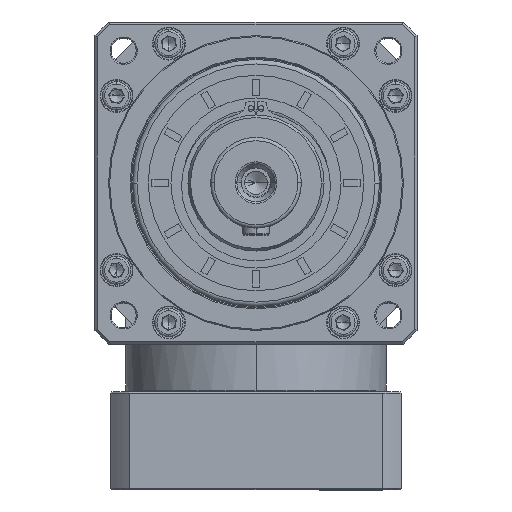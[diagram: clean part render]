
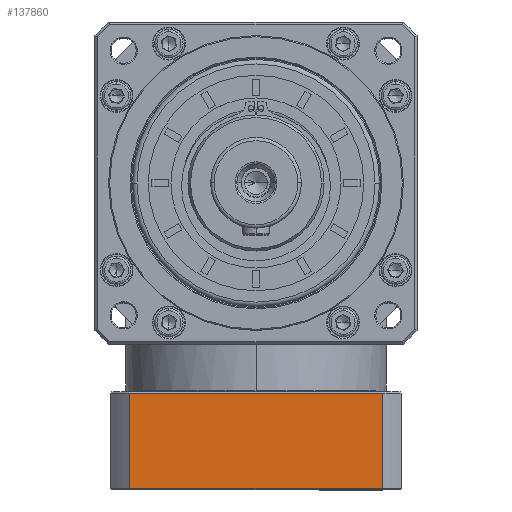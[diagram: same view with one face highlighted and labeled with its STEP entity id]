
A CAD part, top view. The second image highlights one B-rep face of the part: STEP entity #137860.
In plain terms, the highlighted planar face has unit normal (0, 0, 1).
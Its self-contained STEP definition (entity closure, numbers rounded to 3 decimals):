
#4221 = EDGE_CURVE ( 'NONE', #154156, #64078, #118856, .T. ) ;
#7532 = ORIENTED_EDGE ( 'NONE', *, *, #4221, .F. ) ;
#9029 = CARTESIAN_POINT ( 'NONE',  ( -229.051, -110.773, 129.692 ) ) ;
#9103 = VERTEX_POINT ( 'NONE', #9029 ) ;
#10084 = VECTOR ( 'NONE', #41950, 1000. ) ;
#19706 = CARTESIAN_POINT ( 'NONE',  ( -229.051, -153.273, 129.692 ) ) ;
#29843 = CARTESIAN_POINT ( 'NONE',  ( -237.114, -110.773, 129.692 ) ) ;
#30016 = LINE ( 'NONE', #139178, #10084 ) ;
#30314 = VECTOR ( 'NONE', #169698, 1000. ) ;
#33511 = CARTESIAN_POINT ( 'NONE',  ( -117.176, -110.773, 129.692 ) ) ;
#39271 = FACE_OUTER_BOUND ( 'NONE', #60240, .T. ) ;
#41950 = DIRECTION ( 'NONE',  ( 0., -1., 0. ) ) ;
#43412 = DIRECTION ( 'NONE',  ( 1., 0., 0. ) ) ;
#45663 = CARTESIAN_POINT ( 'NONE',  ( -117.176, -152.773, 129.692 ) ) ;
#49512 = PLANE ( 'NONE',  #159399 ) ;
#60240 = EDGE_LOOP ( 'NONE', ( #120293, #172731, #166981, #7532 ) ) ;
#61967 = LINE ( 'NONE', #19706, #104014 ) ;
#62528 = CARTESIAN_POINT ( 'NONE',  ( -237.114, -153.273, 129.692 ) ) ;
#64078 = VERTEX_POINT ( 'NONE', #165658 ) ;
#85769 = EDGE_CURVE ( 'NONE', #64078, #9103, #61967, .T. ) ;
#101918 = LINE ( 'NONE', #29843, #130726 ) ;
#104014 = VECTOR ( 'NONE', #147227, 1000. ) ;
#118856 = LINE ( 'NONE', #170309, #30314 ) ;
#120293 = ORIENTED_EDGE ( 'NONE', *, *, #172313, .F. ) ;
#130726 = VECTOR ( 'NONE', #43412, 1000. ) ;
#137860 = ADVANCED_FACE ( 'NONE', ( #39271 ), #49512, .F. ) ;
#139178 = CARTESIAN_POINT ( 'NONE',  ( -117.176, 142.141, 129.692 ) ) ;
#143833 = VERTEX_POINT ( 'NONE', #33511 ) ;
#147227 = DIRECTION ( 'NONE',  ( 0., 1., 0. ) ) ;
#149200 = DIRECTION ( 'NONE',  ( 0., 0., -1. ) ) ;
#154156 = VERTEX_POINT ( 'NONE', #45663 ) ;
#159399 = AXIS2_PLACEMENT_3D ( 'NONE', #62528, #149200, #162822 ) ;
#162822 = DIRECTION ( 'NONE',  ( -1., 0., 0. ) ) ;
#165658 = CARTESIAN_POINT ( 'NONE',  ( -229.051, -152.773, 129.692 ) ) ;
#166981 = ORIENTED_EDGE ( 'NONE', *, *, #85769, .F. ) ;
#169698 = DIRECTION ( 'NONE',  ( -1., 0., 0. ) ) ;
#170309 = CARTESIAN_POINT ( 'NONE',  ( -237.114, -152.773, 129.692 ) ) ;
#172313 = EDGE_CURVE ( 'NONE', #143833, #154156, #30016, .T. ) ;
#172731 = ORIENTED_EDGE ( 'NONE', *, *, #182234, .F. ) ;
#182234 = EDGE_CURVE ( 'NONE', #9103, #143833, #101918, .T. ) ;
